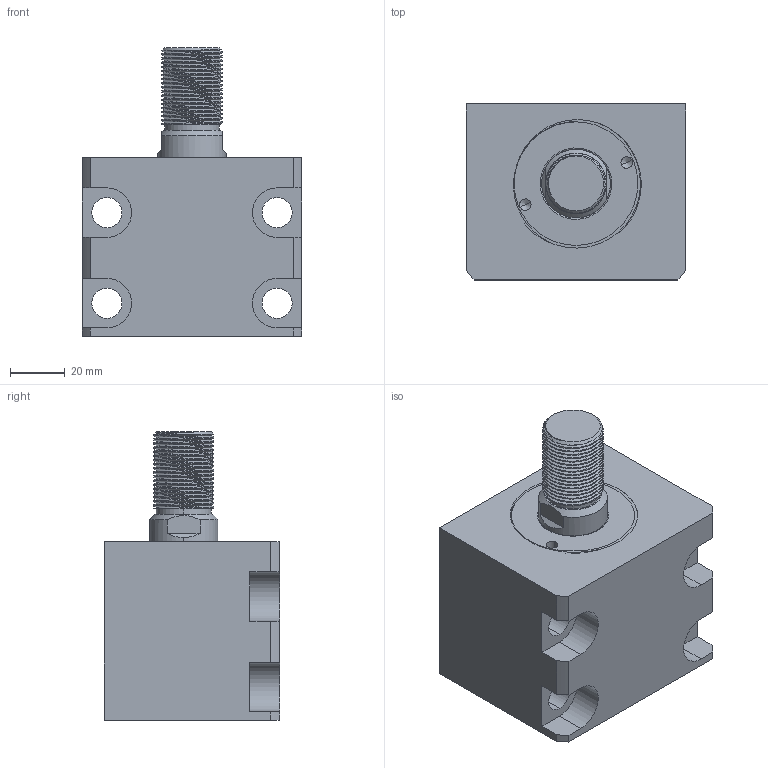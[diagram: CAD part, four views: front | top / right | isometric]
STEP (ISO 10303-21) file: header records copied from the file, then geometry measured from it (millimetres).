
FILE_DESCRIPTION (( 'STEP AP214' ), '1' );
FILE_NAME ('chtb-lam40x10w_asm.STEP', '2018-05-30T03:36:22', ( 'Windows' ), ( 'Microsoft' ), 'SwSTEP 2.0', 'SolidWorks 2015', '' );
FILE_SCHEMA (( 'AUTOMOTIVE_DESIGN' ));
Length unit declared in the file: millimetre
Products named in the file (4): CHTB-LAM40X10NBT; chtb-lam40x10w_asm; CHTB-SD40X10WHSG; CHTB-SD40QG
Assembly tree (3 placements, depth 2):
  chtb-lam40x10w_asm
    CHTB-LAM40X10NBT
    CHTB-SD40QG
    CHTB-SD40X10WHSG
Bounding box: 80 x 64 x 105 mm (x, y, z)
Volume: 303780.4 mm3; surface area: 67489.4 mm2
Topology: 3 solids, 4 shells, 188 faces, 520 edges, 347 vertices
Faces by surface type: cylinder 108, plane 42, bspline 16, torus 12, cone 10
Entity records: 13244 total; most frequent: CARTESIAN_POINT 8619, ORIENTED_EDGE 1028, DIRECTION 837, EDGE_CURVE 514, VERTEX_POINT 347, AXIS2_PLACEMENT_3D 331, EDGE_LOOP 215, FACE_OUTER_BOUND 188
